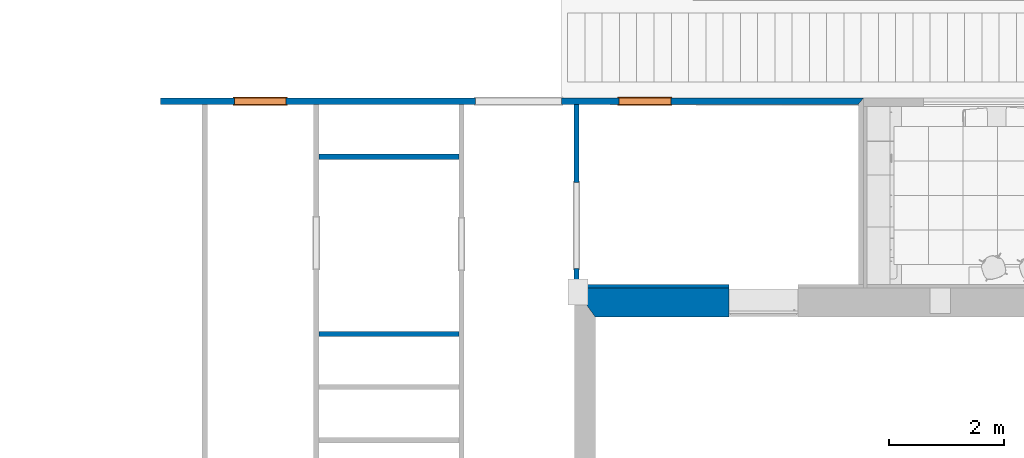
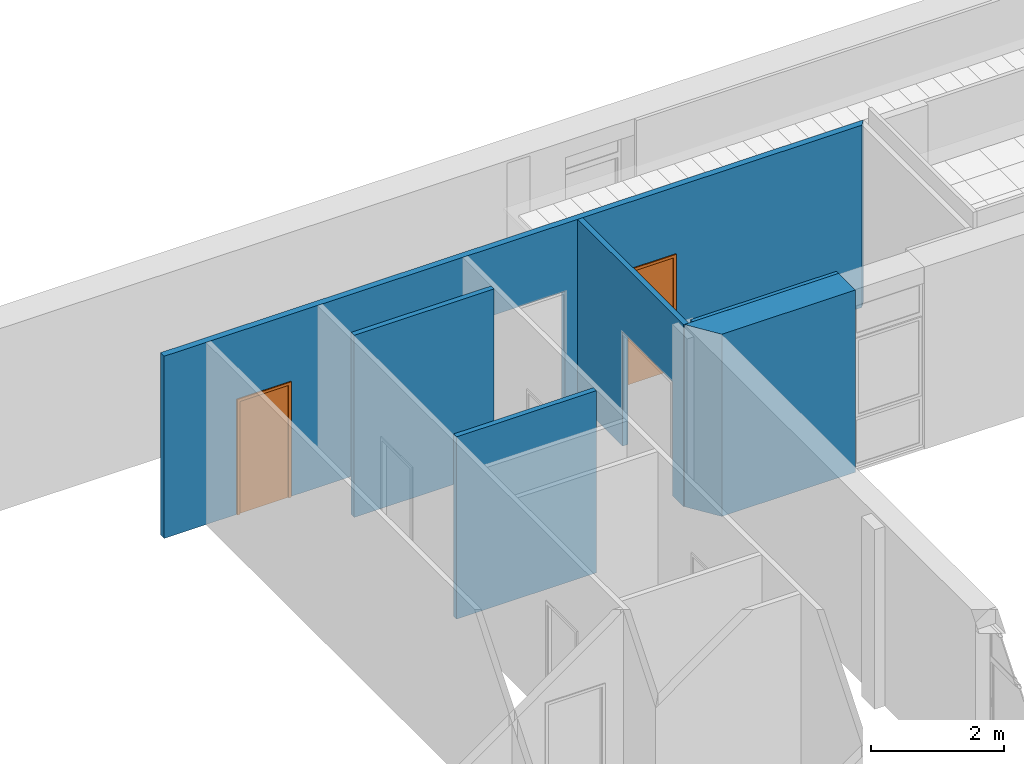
# One storey, part 32 of 60: 6 walls, 2 proxies, 4 openings.
"""IFC2X3 building model written with IfcOpenShell, lengths in millimetres."""

from ifc_helpers import new_model, entity, si_unit, converted_unit, derived_unit, money_unit, direction, frame, origin_with_axes, origin_2d_with_axis, place, context, subcontext, project, spatial, polyline, rectangle, outline, extrude, faceted_brep, source, transform, mapped, material, layer, layer_set, layer_usage, type_object, element, fill, save


model = new_model("IFC2X3")

# Units and contexts
model_context = context("Model", 3, precision=0.01, world=origin_with_axes(), true_north=direction((0.0, 1.0)))
body_context = subcontext(model_context, "Body", "Model", "MODEL_VIEW")
ifc_project = project(units=[si_unit("LENGTHUNIT", "METRE", prefix="MILLI"), si_unit("AREAUNIT", "SQUARE_METRE"), si_unit("VOLUMEUNIT", "CUBIC_METRE"), converted_unit("PLANEANGLEUNIT", "DEGREE", entity("IfcPlaneAngleMeasure", 0.0174532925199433), si_unit("PLANEANGLEUNIT", "RADIAN"), dimensions=[0, 0, 0, 0, 0, 0, 0]), money_unit("USD"), converted_unit("TIMEUNIT", "Year", entity("IfcTimeMeasure", 31557600.0), si_unit("TIMEUNIT", "SECOND"), dimensions=[0, 0, 1, 0, 0, 0, 0]), si_unit("MASSUNIT", "GRAM", prefix="KILO"), si_unit("THERMODYNAMICTEMPERATUREUNIT", "DEGREE_CELSIUS"), si_unit("LUMINOUSINTENSITYUNIT", "LUMEN"), si_unit("ENERGYUNIT", "JOULE", prefix="MEGA"), derived_unit("THERMALCONDUCTANCEUNIT", [(si_unit("POWERUNIT", "WATT"), 1), (si_unit("LENGTHUNIT", "METRE"), -1), (si_unit("THERMODYNAMICTEMPERATUREUNIT", "KELVIN"), -1)]), derived_unit("SPECIFICHEATCAPACITYUNIT", [(si_unit("ENERGYUNIT", "JOULE"), 1), (si_unit("MASSUNIT", "GRAM", prefix="KILO"), -1), (si_unit("THERMODYNAMICTEMPERATUREUNIT", "KELVIN"), -1)]), derived_unit("MASSDENSITYUNIT", [(si_unit("MASSUNIT", "GRAM", prefix="KILO"), 1), (si_unit("VOLUMEUNIT", "CUBIC_METRE"), -1)])], contexts=[model_context])

# Site, building, storey
site_placement = place(None, origin_with_axes())
site = spatial("IfcSite", under=ifc_project, at=site_placement, Name="Sitio", CompositionType="ELEMENT")
building_placement = place(site_placement, origin_with_axes())
building = spatial("IfcBuilding", under=site, at=building_placement, Name="Construcción", CompositionType="ELEMENT")
storey_placement = place(building_placement, frame((0.0, 0.0, 3650.0), z_axis=(0.0, 0.0, 1.0), x_axis=(1.0, 0.0, 0.0)))
storey = spatial("IfcBuildingStorey", under=building, at=storey_placement, Name="PLANTA 2ª", CompositionType="ELEMENT", Elevation=3650.0)

# Walls
ifc_material_1 = material(Name="ARQ_CE217_Gero")
ifc_layer_1 = layer(ifc_material_1, 10.0, ventilated="UNKNOWN")
ifc_layer_2 = layer(ifc_material_1, 90.0, ventilated="UNKNOWN")
ifc_material_2 = material(Name="ARQ_AI031_Aillament_Poliestireno expandido EPS")
ifc_layer_3 = layer(ifc_material_2, 180.0, ventilated="UNKNOWN")
ifc_material_3 = material(Name="ARQ_CE218_Ceramic")
ifc_layer_4 = layer(ifc_material_3, 215.0, ventilated="UNKNOWN")
ifc_material_4 = material(Name="ARQ_AM246_Arrebossat_De_Guix")
ifc_layer_5 = layer(ifc_material_4, 10.0, ventilated="UNKNOWN")
ifc_layer_set_1 = layer_set([ifc_layer_1, ifc_layer_2, ifc_layer_3, ifc_layer_4, ifc_layer_5], Name="façana pati CR2")
ifc_layer_usage_1 = layer_usage(ifc_layer_set_1, "AXIS2", "POSITIVE", -505.0)
wall_type_1 = type_object("IfcWallType", Name="façana pati CR2 505", PredefinedType="NOTDEFINED")
wall_1_placement = place(storey_placement, frame((-28050.84818028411, -1193.975823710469, 0.0), z_axis=(0.0, 0.0, 1.0), x_axis=(1.0, 0.0, 0.0)))
element("IfcWallStandardCase", 1, at=wall_1_placement, inside=storey, type_object=wall_type_1, material=ifc_layer_usage_1, Name="MS-200", context=body_context, shape_type="SweptSolid", body=[
    extrude(outline(polyline([(359.9999999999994, -505.0000000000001), (2684.416824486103, -505.0000000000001), (2684.416824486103, 0.0), (0.0, 0.0), (359.9999999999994, -505.0000000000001)])), origin_with_axes(), (0.0, 0.0, 1.0), 3350.0),
])
ifc_material_5 = material(Name="ARQ_FU093_Panellat_HPL")
ifc_layer_6 = layer(ifc_material_5, 6.0, ventilated="UNKNOWN")
ifc_material_6 = material(Name="ARQ_EN271_Camara_Aire")
ifc_layer_7 = layer(ifc_material_6, 6.0, ventilated="UNKNOWN")
ifc_material_7 = material(Name="Panel de Yeso Laminado")
ifc_layer_8 = layer(ifc_material_7, 13.0, ventilated="UNKNOWN")
ifc_material_8 = material(Name="ARQ_AI033_Aillament_Llana_De_Roca")
ifc_layer_9 = layer(ifc_material_8, 40.0, ventilated="UNKNOWN")
ifc_layer_set_2 = layer_set([ifc_layer_6, ifc_layer_7, ifc_layer_8, ifc_layer_9], Name="Pladur Tras 40 / 1N +HPL")
ifc_layer_usage_2 = layer_usage(ifc_layer_set_2, "AXIS2", "NEGATIVE", 0.0)
wall_type_2 = type_object("IfcWallType", Name="Pladur Tras 40 / 1N +HPL 65", PredefinedType="NOTDEFINED")
wall_2_placement = place(storey_placement, frame((-27904.84818028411, -1128.975823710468, 0.0), z_axis=(0.0, 0.0, 1.0), x_axis=(1.0, 0.0, 0.0)))
element("IfcWallStandardCase", 2, at=wall_2_placement, inside=storey, type_object=wall_type_2, material=ifc_layer_usage_2, Name="MS-241", context=body_context, shape_type="SweptSolid", body=[
    extrude(outline(polyline([(0.0, -64.99999999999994), (2538.416824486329, -64.99999999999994), (2538.416824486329, 0.0), (0.0, 0.0), (0.0, -64.99999999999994)])), origin_with_axes(), (0.0, 0.0, 1.0), 3350.0),
])

# Wall, openings, proxies
ifc_layer_10 = layer(ifc_material_4, 10.0, ventilated="UNKNOWN")
ifc_layer_11 = layer(ifc_material_1, 90.0, ventilated="UNKNOWN")
ifc_layer_12 = layer(ifc_material_4, 10.0, ventilated="UNKNOWN")
ifc_layer_set_3 = layer_set([ifc_layer_10, ifc_layer_11, ifc_layer_12], Name="CR Enva Totxana")
ifc_layer_usage_3 = layer_usage(ifc_layer_set_3, "AXIS2", "POSITIVE", -110.0)
wall_type_3 = type_object("IfcWallType", Name="CR Enva Totxana 110", PredefinedType="NOTDEFINED")
wall_3_placement = place(storey_placement, frame((-23028.41789761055, 1999.554870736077, 0.0), z_axis=(0.0, 0.0, 1.0), x_axis=(-1.0, 0.0, 0.0)))
wall_3 = element("IfcWallStandardCase", 3, at=wall_3_placement, inside=storey, type_object=wall_type_3, material=ifc_layer_usage_3, Name="MS-201", context=body_context, shape_type="SweptSolid", body=[
    extrude(outline(polyline([(0.0, -109.9999999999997), (12222.16708869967, -110.0000000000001), (12222.16708869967, 0.0), (89.99999999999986, 0.0), (0.0, -109.9999999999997)])), origin_with_axes(), (0.0, 0.0, 1.0), 3350.0),
])
opening_1_placement = place(wall_3_placement, frame((10490.1081784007, 0.0, 0.0), z_axis=(0.0, 0.0, 1.0), x_axis=(1.0, 0.0, 0.0)))
opening_1 = element("IfcOpeningElement", 4, at=opening_1_placement, cuts=wall_3, Name="PF-21D", context=body_context, shape_type="SweptSolid", body=[
    extrude(rectangle(XDim=900.0000000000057, YDim=2100.0, at=origin_2d_with_axis()), frame((0.0, -109.9999999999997, 1050.0), z_axis=(0.0, 1.0, 0.0), x_axis=(1.0, 0.0, 0.0)), (0.0, 0.0, 1.0), 329.9999999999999),
    extrude(rectangle(XDim=944.0000000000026, YDim=2122.0, at=origin_2d_with_axis()), frame((0.0, -110.0000000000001, 1061.0), z_axis=(0.0, 1.0, 0.0), x_axis=(1.0, 0.0, 0.0)), (0.0, 0.0, -1.0), 110.0),
    extrude(rectangle(XDim=944.0000000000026, YDim=2122.0, at=origin_2d_with_axis()), frame((0.0, 0.0, 1061.0), z_axis=(0.0, -1.0, 0.0), x_axis=(1.0, 0.0, 0.0)), (0.0, 0.0, -1.0), 110.0),
])
opening_2_placement = place(wall_3_placement, frame((3800.31908747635, 0.0, 0.0), z_axis=(0.0, 0.0, 1.0), x_axis=(1.0, 0.0, 0.0)))
opening_2 = element("IfcOpeningElement", 5, at=opening_2_placement, cuts=wall_3, Name="PF-18D", context=body_context, shape_type="SweptSolid", body=[
    extrude(rectangle(XDim=899.9999999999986, YDim=2100.0, at=origin_2d_with_axis()), frame((0.0, -109.9999999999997, 1050.0), z_axis=(0.0, 1.0, 0.0), x_axis=(1.0, 0.0, 0.0)), (0.0, 0.0, 1.0), 329.9999999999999),
    extrude(rectangle(XDim=944.0000000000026, YDim=2122.0, at=origin_2d_with_axis()), frame((0.0, -110.0000000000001, 1061.0), z_axis=(0.0, 1.0, 0.0), x_axis=(1.0, 0.0, 0.0)), (0.0, 0.0, -1.0), 110.0),
    extrude(rectangle(XDim=944.0000000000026, YDim=2122.0, at=origin_2d_with_axis()), frame((0.0, 0.0, 1061.0), z_axis=(0.0, -1.0, 0.0), x_axis=(1.0, 0.0, 0.0)), (0.0, 0.0, -1.0), 110.0),
])
opening_3_placement = place(wall_3_placement, frame((5998.982574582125, 0.0, 0.0), z_axis=(0.0, 0.0, 1.0), x_axis=(1.0, 0.0, 0.0)))
element("IfcOpeningElement", 6, at=opening_3_placement, cuts=wall_3, Name="PF-31D", context=body_context, shape_type="SweptSolid", body=[
    extrude(rectangle(XDim=1500.0, YDim=2100.0, at=origin_2d_with_axis()), frame((0.0, -110.0000000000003, 1050.0), z_axis=(0.0, 1.0, 0.0), x_axis=(1.0, 0.0, 0.0)), (0.0, 0.0, 1.0), 329.9999999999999),
    extrude(rectangle(XDim=1543.999999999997, YDim=2122.0, at=origin_2d_with_axis()), frame((0.0, -110.0000000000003, 1061.0), z_axis=(0.0, 1.0, 0.0), x_axis=(1.0, 0.0, 0.0)), (0.0, 0.0, -1.0), 110.0),
    extrude(rectangle(XDim=1543.999999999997, YDim=2122.0, at=origin_2d_with_axis()), frame((0.0, 0.0, 1061.0), z_axis=(0.0, -1.0, 0.0), x_axis=(1.0, 0.0, 0.0)), (0.0, 0.0, -1.0), 110.0),
])
building_element_proxy_type = type_object("IfcBuildingElementProxyType", Name="Puerta 27", PredefinedType="NOTDEFINED")
shared_shape = source(origin_with_axes(), body_context, "Body", "Brep", [
    faceted_brep([(-472.0000000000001, -129.0, 0.0), (-472.0000000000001, -110.0, 0.0), (-422.0000000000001, -110.0, 0.0), (-422.0000000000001, -129.0, 0.0), (-472.0000000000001, -129.0000000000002, 2122.0), (-472.0000000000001, -110.0000000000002, 2122.0), (-422.0000000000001, -110.0000000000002, 2072.0), (-422.0000000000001, -129.0000000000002, 2072.0)], [[[0, 1, 2, 3]], [[4, 5, 1, 0]], [[1, 5, 6, 2]], [[3, 2, 6, 7]], [[0, 3, 7, 4]], [[7, 6, 5, 4]]]),
    faceted_brep([(472.0000000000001, -129.0000000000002, 2122.0), (472.0000000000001, -110.0000000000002, 2122.0), (422.0000000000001, -110.0000000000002, 2072.0), (422.0000000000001, -129.0000000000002, 2072.0), (472.0000000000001, -129.0, 0.0), (472.0000000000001, -110.0, 0.0), (422.0000000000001, -110.0, 0.0), (422.0000000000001, -129.0, 0.0)], [[[0, 1, 2, 3]], [[4, 5, 1, 0]], [[1, 5, 6, 2]], [[3, 2, 6, 7]], [[0, 3, 7, 4]], [[7, 6, 5, 4]]]),
    faceted_brep([(-472.0000000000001, -129.0000000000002, 2122.0), (-472.0000000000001, -110.0000000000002, 2122.0), (-422.0000000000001, -110.0000000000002, 2072.0), (-422.0000000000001, -129.0000000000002, 2072.0), (472.0000000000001, -129.0000000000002, 2122.0), (472.0000000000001, -110.0000000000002, 2122.0), (422.0000000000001, -110.0000000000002, 2072.0), (422.0000000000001, -129.0000000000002, 2072.0)], [[[0, 1, 2, 3]], [[4, 5, 1, 0]], [[1, 5, 6, 2]], [[3, 2, 6, 7]], [[0, 3, 7, 4]], [[7, 6, 5, 4]]]),
    faceted_brep([(-472.0000000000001, 19.0, 0.0), (-422.0000000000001, 19.0, 0.0), (-422.0000000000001, 0.0, 0.0), (-472.0000000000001, 0.0, 0.0), (-472.0000000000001, 18.99999999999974, 2122.0), (-422.0000000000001, 18.99999999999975, 2072.0), (-422.0000000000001, 0.0, 2072.0), (-472.0000000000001, 0.0, 2122.0)], [[[0, 1, 2, 3]], [[0, 4, 5, 1]], [[1, 5, 6, 2]], [[3, 2, 6, 7]], [[4, 0, 3, 7]], [[5, 4, 7, 6]]]),
    faceted_brep([(472.0000000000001, 18.99999999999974, 2122.0), (422.0000000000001, 18.99999999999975, 2072.0), (422.0000000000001, 0.0, 2072.0), (472.0000000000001, 0.0, 2122.0), (472.0000000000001, 19.0, 0.0), (422.0000000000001, 19.0, 0.0), (422.0000000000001, 0.0, 0.0), (472.0000000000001, 0.0, 0.0)], [[[0, 1, 2, 3]], [[0, 4, 5, 1]], [[1, 5, 6, 2]], [[3, 2, 6, 7]], [[4, 0, 3, 7]], [[5, 4, 7, 6]]]),
    faceted_brep([(-472.0000000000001, 18.99999999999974, 2122.0), (-422.0, 18.99999999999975, 2072.0), (-422.0, 0.0, 2072.0), (-472.0000000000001, 0.0, 2122.0), (472.0000000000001, 18.99999999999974, 2122.0), (422.0, 18.99999999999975, 2072.0), (422.0, 0.0, 2072.0), (472.0000000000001, 0.0, 2122.0)], [[[0, 1, 2, 3]], [[0, 4, 5, 1]], [[1, 5, 6, 2]], [[3, 2, 6, 7]], [[4, 0, 3, 7]], [[5, 4, 7, 6]]]),
    faceted_brep([(-409.9999999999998, -40.0, 0.0), (-410.0000000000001, -40.0, 2060.0), (-410.0000000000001, -110.0, 2060.0), (-410.0000000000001, -110.0, 0.0), (-422.0000000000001, -40.0, 2060.0), (-422.0000000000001, -40.0, 0.0), (-422.0000000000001, 0.0, 2060.0), (-449.9999999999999, 0.0, 2060.0), (-449.9999999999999, -110.0, 2060.0), (-449.9999999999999, -110.0, 0.0), (-449.9999999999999, 0.0, 0.0), (-422.0000000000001, 0.0, 0.0)], [[[0, 1, 2, 3]], [[4, 1, 0, 5]], [[4, 6, 7, 8, 2, 1]], [[3, 2, 8, 9]], [[5, 0, 3, 9, 10, 11]], [[6, 4, 5, 11]], [[6, 11, 10, 7]], [[10, 9, 8, 7]]]),
    faceted_brep([(422.0000000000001, -40.0, 2060.0), (410.0000000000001, -40.0, 2060.0), (410.0000000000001, -110.0, 2060.0), (449.9999999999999, -110.0, 2060.0), (449.9999999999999, 0.0, 2060.0), (422.0000000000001, 0.0, 2060.0), (422.0000000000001, -40.0, 0.0), (410.0000000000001, -40.0, 0.0), (410.0000000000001, -110.0, 0.0), (449.9999999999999, -110.0, 0.0), (449.9999999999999, 0.0, 0.0), (422.0000000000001, 0.0, 0.0)], [[[0, 1, 2, 3, 4, 5]], [[1, 0, 6, 7]], [[1, 7, 8, 2]], [[3, 2, 8, 9]], [[4, 3, 9, 10]], [[11, 5, 4, 10]], [[0, 5, 11, 6]], [[6, 11, 10, 9, 8, 7]]]),
    faceted_brep([(-422.0000000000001, 0.0, 2072.0), (-422.0000000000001, 0.0, 2060.0), (-450.0, 0.0, 2060.0), (-450.0, 0.0, 2100.0), (450.0, 0.0, 2100.0), (450.0, 0.0, 2060.0), (422.0000000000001, 0.0, 2060.0), (422.0000000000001, 0.0, 2072.0), (-422.0000000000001, -40.0, 2072.0), (-422.0000000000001, -40.0, 2060.0), (-410.0000000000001, -40.0, 2060.0), (-410.0000000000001, -110.0, 2060.0), (-450.0, -110.0, 2060.0), (-450.0, -110.0, 2100.0), (450.0, -110.0, 2100.0), (450.0, -110.0, 2060.0), (422.0000000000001, -40.0, 2060.0), (410.0000000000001, -110.0, 2060.0), (410.0000000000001, -40.0, 2060.0), (422.0000000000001, -40.0, 2072.0)], [[[0, 1, 2, 3, 4, 5, 6, 7]], [[1, 0, 8, 9]], [[9, 10, 11, 12, 2, 1]], [[2, 12, 13, 3]], [[3, 13, 14, 4]], [[4, 14, 15, 5]], [[16, 6, 5, 15, 17, 18]], [[7, 6, 16, 19]], [[0, 7, 19, 8]], [[16, 18, 10, 9, 8, 19]], [[10, 18, 17, 11]], [[17, 15, 14, 13, 12, 11]]]),
    faceted_brep([(421.9999999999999, 0.0, 0.0), (421.9999999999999, -40.0, 0.0), (-422.0000000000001, -40.0, 0.0), (-422.0000000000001, 0.0, 0.0), (421.9999999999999, 0.0, 2072.0), (421.9999999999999, -40.00000000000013, 2072.0), (-422.0000000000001, -40.00000000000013, 2072.0), (-422.0000000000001, 0.0, 2072.0)], [[[0, 1, 2, 3]], [[4, 5, 1, 0]], [[1, 5, 6, 2]], [[3, 2, 6, 7]], [[0, 3, 7, 4]], [[7, 6, 5, 4]]]),
])
proxy_1_placement = place(opening_2_placement, frame((-449.9999999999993, 0.0, 0.0), z_axis=(0.0, 0.0, 1.0), x_axis=(1.0, 0.0, 0.0)))
proxy_1 = element("IfcBuildingElementProxy", 7, at=proxy_1_placement, inside=storey, type_object=building_element_proxy_type, Name="PF-18D", context=body_context, shape_type="MappedRepresentation", body=[
    mapped(shared_shape, transform((449.9999999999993, 0.0, 0.0))),
])
fill(opening_2, proxy_1)
proxy_2_placement = place(opening_1_placement, frame((-450.0000000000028, 0.0, 0.0), z_axis=(0.0, 0.0, 1.0), x_axis=(1.0, 0.0, 0.0)))
proxy_2 = element("IfcBuildingElementProxy", 8, at=proxy_2_placement, inside=storey, type_object=building_element_proxy_type, Name="PF-21D", context=body_context, shape_type="MappedRepresentation", body=[
    mapped(shared_shape, transform((450.0000000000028, 0.0, 0.0))),
])
fill(opening_1, proxy_2)

# Wall, opening
ifc_layer_13 = layer(ifc_material_4, 10.0, ventilated="UNKNOWN")
ifc_layer_14 = layer(ifc_material_1, 70.0, ventilated="UNKNOWN")
ifc_layer_15 = layer(ifc_material_4, 10.0, ventilated="UNKNOWN")
ifc_layer_set_4 = layer_set([ifc_layer_13, ifc_layer_14, ifc_layer_15], Name="CR Enva Totxaneta")
ifc_layer_usage_4 = layer_usage(ifc_layer_set_4, "AXIS2", "POSITIVE", 0.0)
wall_type_4 = type_object("IfcWallType", Name="CR Enva Totxaneta 90", PredefinedType="NOTDEFINED")
wall_4_placement = place(storey_placement, frame((-27971.8071229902, -1193.97582371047, 0.0), z_axis=(0.0, 0.0, 1.0), x_axis=(0.0, 1.0, 0.0)))
wall_4 = element("IfcWallStandardCase", 9, at=wall_4_placement, inside=storey, type_object=wall_type_4, material=ifc_layer_usage_4, Name="MS-203", context=body_context, shape_type="SweptSolid", body=[
    extrude(outline(polyline([(0.0, 0.0), (3193.530694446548, 0.0), (3193.530694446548, 89.99999999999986), (0.0, 89.99999999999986), (0.0, 0.0)])), origin_with_axes(), (0.0, 0.0, 1.0), 3350.0),
])
opening_4_placement = place(wall_4_placement, frame((1089.369018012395, 0.0, 0.0), z_axis=(0.0, 0.0, 1.0), x_axis=(1.0, 0.0, 0.0)))
element("IfcOpeningElement", 10, at=opening_4_placement, cuts=wall_4, Name="PF-31D", context=body_context, shape_type="SweptSolid", body=[
    extrude(rectangle(XDim=1500.0, YDim=2100.0, at=origin_2d_with_axis()), frame((0.0, 89.99999999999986, 1050.0), z_axis=(0.0, 1.0, 0.0), x_axis=(1.0, 0.0, 0.0)), (0.0, 0.0, -1.0), 270.0),
    extrude(rectangle(XDim=1544.0, YDim=2122.0, at=origin_2d_with_axis()), frame((0.0, 89.99999999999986, 1061.0), z_axis=(0.0, 1.0, 0.0), x_axis=(1.0, 0.0, 0.0)), (0.0, 0.0, 1.0), 90.0),
    extrude(rectangle(XDim=1544.0, YDim=2122.0, at=origin_2d_with_axis()), frame((0.0, 0.0, 1061.0), z_axis=(0.0, -1.0, 0.0), x_axis=(1.0, 0.0, 0.0)), (0.0, 0.0, 1.0), 90.0),
])

# Walls
ifc_layer_usage_5 = layer_usage(ifc_layer_set_4, "AXIS2", "POSITIVE", 0.0)
wall_5_placement = place(storey_placement, frame((-29972.67583112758, -1946.183451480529, 0.0), z_axis=(0.0, 0.0, 1.0), x_axis=(-1.0, 0.0, 0.0)))
element("IfcWallStandardCase", 11, at=wall_5_placement, inside=storey, type_object=wall_type_4, material=ifc_layer_usage_5, Name="MS-203", context=body_context, shape_type="SweptSolid", body=[
    extrude(outline(polyline([(89.9999999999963, 0.0), (2525.981922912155, 0.0), (2525.981922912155, 89.99999999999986), (89.9999999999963, 89.99999999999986), (89.9999999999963, 0.0)])), origin_with_axes(), (0.0, 0.0, 1.0), 3350.0),
])
ifc_layer_usage_6 = layer_usage(ifc_layer_set_4, "AXIS2", "POSITIVE", 0.0)
wall_6_placement = place(storey_placement, frame((-29972.67583112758, 1136.039358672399, 0.0), z_axis=(0.0, 0.0, 1.0), x_axis=(-1.0, 0.0, 0.0)))
element("IfcWallStandardCase", 12, at=wall_6_placement, inside=storey, type_object=wall_type_4, material=ifc_layer_usage_6, Name="MS-203", context=body_context, shape_type="SweptSolid", body=[
    extrude(outline(polyline([(89.9999999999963, 0.0), (2525.981922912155, 0.0), (2525.981922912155, 90.00000000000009), (89.9999999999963, 90.00000000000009), (89.9999999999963, 0.0)])), origin_with_axes(), (0.0, 0.0, 1.0), 3350.0),
])

save(model, "model.ifc")
